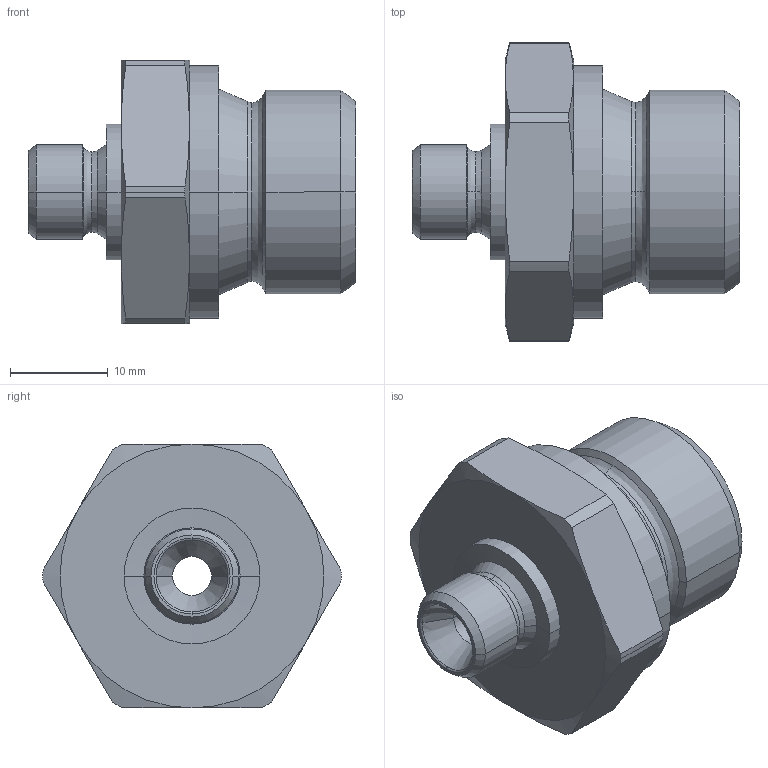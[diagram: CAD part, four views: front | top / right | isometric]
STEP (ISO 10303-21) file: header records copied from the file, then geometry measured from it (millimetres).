
FILE_DESCRIPTION((''),'2;1');
FILE_NAME('300532.stp','2006-09-11T08:16:07',(''),(''),'AutoCAD STEP 2000i','AutoCAD 2000i',', , ');
FILE_SCHEMA(('CONFIG_CONTROL_DESIGN'));
Length unit declared in the file: millimetre
Products named in the file (2): 300532.0; CHIAVE SMUSSATA#0
Assembly tree (1 placements, depth 2):
  300532.0
    CHIAVE SMUSSATA#0
Bounding box: 33.5 x 30.5 x 27 mm (x, y, z)
Volume: 8643.2 mm3; surface area: 4087.7 mm2
Topology: 1 solids, 1 shells, 76 faces, 178 edges, 106 vertices
Faces by surface type: cone 34, cylinder 20, plane 10, bspline 8, torus 4
Entity records: 2593 total; most frequent: CARTESIAN_POINT 762, DIRECTION 400, ORIENTED_EDGE 356, EDGE_CURVE 178, AXIS2_PLACEMENT_3D 176, VERTEX_POINT 106, CIRCLE 106, EDGE_LOOP 80
